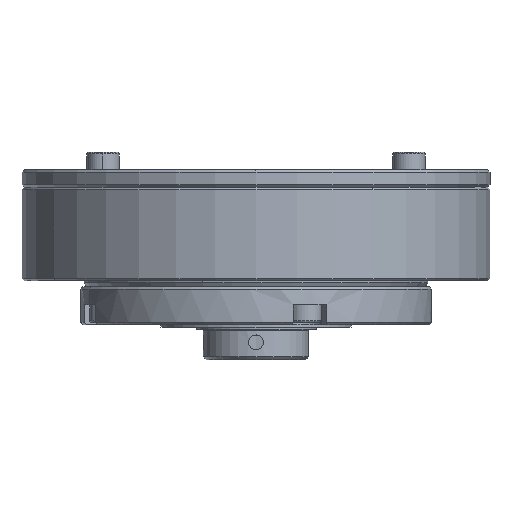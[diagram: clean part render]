
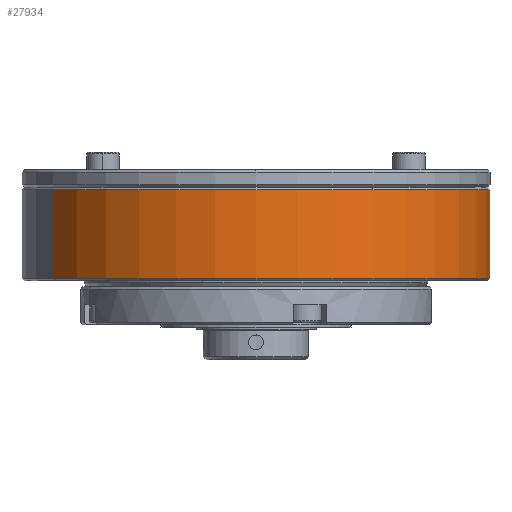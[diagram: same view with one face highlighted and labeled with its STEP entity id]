
A CAD part, front view. The second image highlights one B-rep face of the part: STEP entity #27934.
In plain terms, the highlighted cylindrical face has radius 40 mm (diameter 80 mm), a partial arc.
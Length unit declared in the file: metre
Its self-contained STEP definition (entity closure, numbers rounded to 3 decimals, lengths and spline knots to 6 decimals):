
#490 = EDGE_CURVE ( 'NONE', #2707, #20705, #28578, .T. ) ;
#1248 = LINE ( 'NONE', #22018, #8000 ) ;
#2707 = VERTEX_POINT ( 'NONE', #25217 ) ;
#3191 = EDGE_LOOP ( 'NONE', ( #9445, #14175, #12841, #23681, #25624 ) ) ;
#3538 = DIRECTION ( 'NONE',  ( 0., 0., 1. ) ) ;
#3545 = DIRECTION ( 'NONE',  ( 0., 0., -1. ) ) ;
#5127 = DIRECTION ( 'NONE',  ( 0., 0., 1. ) ) ;
#6066 = EDGE_CURVE ( 'NONE', #20705, #8207, #1248, .T. ) ;
#7240 = DIRECTION ( 'NONE',  ( 0.866, 0.5, 0. ) ) ;
#7533 = EDGE_CURVE ( 'NONE', #8207, #20578, #27564, .T. ) ;
#7827 = LINE ( 'NONE', #17134, #29788 ) ;
#8000 = VECTOR ( 'NONE', #3538, 1. ) ;
#8207 = VERTEX_POINT ( 'NONE', #29378 ) ;
#9445 = ORIENTED_EDGE ( 'NONE', *, *, #29222, .F. ) ;
#9646 = CARTESIAN_POINT ( 'NONE',  ( 0., 0., 0.0229 ) ) ;
#12091 = FACE_OUTER_BOUND ( 'NONE', #3191, .T. ) ;
#12261 = DIRECTION ( 'NONE',  ( 0., 0., -1. ) ) ;
#12540 = DIRECTION ( 'NONE',  ( 0., 0., 1. ) ) ;
#12841 = ORIENTED_EDGE ( 'NONE', *, *, #6066, .T. ) ;
#12946 = AXIS2_PLACEMENT_3D ( 'NONE', #21716, #3545, #17135 ) ;
#14175 = ORIENTED_EDGE ( 'NONE', *, *, #490, .T. ) ;
#14550 = AXIS2_PLACEMENT_3D ( 'NONE', #18835, #12261, #7240 ) ;
#16414 = CARTESIAN_POINT ( 'NONE',  ( 0., 0., 0.0073 ) ) ;
#16578 = DIRECTION ( 'NONE',  ( 0.866, 0.5, 0. ) ) ;
#17134 = CARTESIAN_POINT ( 'NONE',  ( -0.034641, -0.02, 0.0229 ) ) ;
#17135 = DIRECTION ( 'NONE',  ( 0.866, 0.5, 0. ) ) ;
#17139 = AXIS2_PLACEMENT_3D ( 'NONE', #9646, #18977, #28286 ) ;
#18835 = CARTESIAN_POINT ( 'NONE',  ( 0., 0., 0.0225 ) ) ;
#18977 = DIRECTION ( 'NONE',  ( 0., 0., 1. ) ) ;
#19308 = AXIS2_PLACEMENT_3D ( 'NONE', #16414, #5127, #16578 ) ;
#19442 = CIRCLE ( 'NONE', #14550, 0.04 ) ;
#20578 = VERTEX_POINT ( 'NONE', #21640 ) ;
#20705 = VERTEX_POINT ( 'NONE', #22096 ) ;
#21640 = CARTESIAN_POINT ( 'NONE',  ( 0.02, -0.034641, 0.0225 ) ) ;
#21716 = CARTESIAN_POINT ( 'NONE',  ( 0., 0., 0.0225 ) ) ;
#22018 = CARTESIAN_POINT ( 'NONE',  ( 0.034641, 0.02, 0.0229 ) ) ;
#22096 = CARTESIAN_POINT ( 'NONE',  ( 0.034641, 0.02, 0.0073 ) ) ;
#23465 = EDGE_CURVE ( 'NONE', #20578, #26723, #19442, .T. ) ;
#23681 = ORIENTED_EDGE ( 'NONE', *, *, #7533, .T. ) ;
#25217 = CARTESIAN_POINT ( 'NONE',  ( -0.034641, -0.02, 0.0073 ) ) ;
#25624 = ORIENTED_EDGE ( 'NONE', *, *, #23465, .T. ) ;
#26723 = VERTEX_POINT ( 'NONE', #29829 ) ;
#27564 = CIRCLE ( 'NONE', #12946, 0.04 ) ;
#27934 = ADVANCED_FACE ( 'NONE', ( #12091 ), #28432, .T. ) ;
#28286 = DIRECTION ( 'NONE',  ( 0.866, 0.5, 0. ) ) ;
#28432 = CYLINDRICAL_SURFACE ( 'NONE', #17139, 0.04 ) ;
#28578 = CIRCLE ( 'NONE', #19308, 0.04 ) ;
#29222 = EDGE_CURVE ( 'NONE', #2707, #26723, #7827, .T. ) ;
#29378 = CARTESIAN_POINT ( 'NONE',  ( 0.034641, 0.02, 0.0225 ) ) ;
#29788 = VECTOR ( 'NONE', #12540, 1. ) ;
#29829 = CARTESIAN_POINT ( 'NONE',  ( -0.034641, -0.02, 0.0225 ) ) ;
